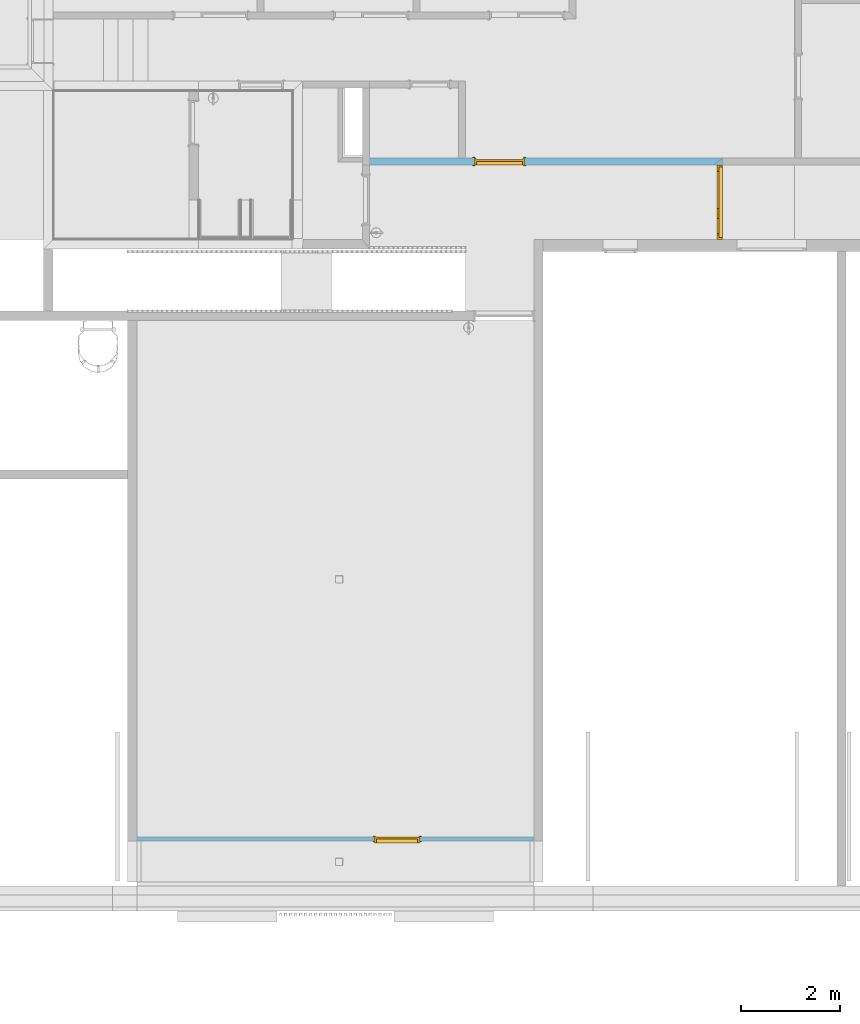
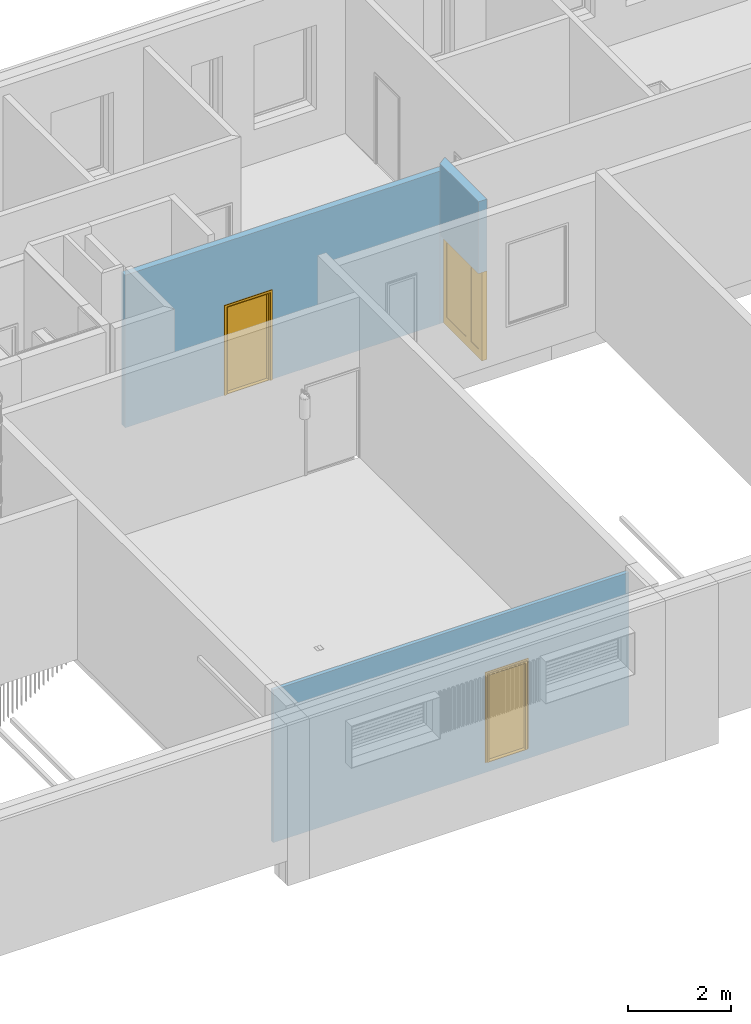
# One storey, part 52 of 100: 3 doors, 3 openings, plus 3 elements that do not belong to this part.
"""IFC2X3 building model written with IfcOpenShell, lengths in millimetres."""

from ifc_helpers import new_model, entity, si_unit, converted_unit, derived_unit, money_unit, direction, frame, origin_with_axes, origin_2d_with_axis, place, context, subcontext, project, spatial, polyline, rectangle, outline, extrude, open_shell, faceted_brep, surface_model, material, layer, layer_set, layer_usage, type_object, element, fill, save


model = new_model("IFC2X3")

# Units and contexts
model_context = context("Model", 3, precision=0.01, world=origin_with_axes(), true_north=direction((0.0, 1.0)))
body_context = subcontext(model_context, "Body", "Model", "MODEL_VIEW")
ifc_project = project(units=[si_unit("LENGTHUNIT", "METRE", prefix="MILLI"), si_unit("AREAUNIT", "SQUARE_METRE"), si_unit("VOLUMEUNIT", "CUBIC_METRE"), converted_unit("PLANEANGLEUNIT", "DEGREE", entity("IfcPlaneAngleMeasure", 0.0174532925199), si_unit("PLANEANGLEUNIT", "RADIAN"), dimensions=[0, 0, 0, 0, 0, 0, 0]), si_unit("SOLIDANGLEUNIT", "STERADIAN"), money_unit("EUR"), converted_unit("TIMEUNIT", "Year", entity("IfcTimeMeasure", 31556926.0), si_unit("TIMEUNIT", "SECOND"), dimensions=[0, 0, 1, 0, 0, 0, 0]), si_unit("MASSUNIT", "GRAM", prefix="KILO"), si_unit("THERMODYNAMICTEMPERATUREUNIT", "DEGREE_CELSIUS"), si_unit("LUMINOUSINTENSITYUNIT", "LUMEN"), si_unit("ENERGYUNIT", "JOULE", prefix="MEGA"), derived_unit("THERMALCONDUCTANCEUNIT", [(si_unit("POWERUNIT", "WATT"), 1), (si_unit("LENGTHUNIT", "METRE"), -1), (si_unit("THERMODYNAMICTEMPERATUREUNIT", "KELVIN"), -1)]), derived_unit("SPECIFICHEATCAPACITYUNIT", [(si_unit("ENERGYUNIT", "JOULE"), 1), (si_unit("MASSUNIT", "GRAM", prefix="KILO"), -1), (si_unit("THERMODYNAMICTEMPERATUREUNIT", "KELVIN"), -1)]), derived_unit("MASSDENSITYUNIT", [(si_unit("MASSUNIT", "GRAM", prefix="KILO"), 1), (si_unit("VOLUMEUNIT", "CUBIC_METRE"), -1)])], contexts=[model_context])

# Site, building, storey
site_placement = place(None, origin_with_axes())
site = spatial("IfcSite", under=ifc_project, at=site_placement, Name="Politse- ja Piirivalveameti ning Päästeameti ühishoone", CompositionType="ELEMENT")
building_placement = place(site_placement, origin_with_axes())
building = spatial("IfcBuilding", under=site, at=building_placement, Name="Politse- ja Piirivalveameti ning Päästeameti ühishoone", CompositionType="ELEMENT")
storey_placement = place(building_placement, frame((0.0, 0.0, 3800.0), z_axis=(0.0, 0.0, 1.0), x_axis=(1.0, 0.0, 0.0)))
storey = spatial("IfcBuildingStorey", under=building, at=storey_placement, Name="Teine korrus", CompositionType="ELEMENT", Elevation=3800.0)

# Wall, opening, door
ifc_material_1 = material(Name="KON-05_Betoon Plokk - Konstuktsioon")
ifc_layer_1 = layer(ifc_material_1, 190.0, ventilated="UNKNOWN")
ifc_layer_set_1 = layer_set([ifc_layer_1], Name="SS-03_Sisesein 190")
ifc_layer_usage_1 = layer_usage(ifc_layer_set_1, "AXIS2", "POSITIVE", 0.0)
wall_type_1 = type_object("IfcWallType", Name="SS-03_Sisesein 190 190", PredefinedType="NOTDEFINED")
wall_1_placement = place(storey_placement, frame((30369.9035567, 13000.0198611, 0.0), z_axis=(0.0, 0.0, 1.0), x_axis=(0.0, 1.0, 0.0)))
wall_1 = element("IfcWallStandardCase", 1, at=wall_1_placement, inside=storey, type_object=wall_type_1, material=ifc_layer_usage_1, Name="SS-03", context=body_context, shape_type="SweptSolid", body=[
    extrude(outline(polyline([(0.0, 0.0), (1640.0222917, 0.0), (1500.0222917, 190.0), (0.0, 190.0), (0.0, 0.0)])), origin_with_axes(), (0.0, 0.0, 1.0), 3800.0),
])
opening_1_placement = place(wall_1_placement, frame((750.0, 0.0, 0.0), z_axis=(0.0, 0.0, 1.0), x_axis=(1.0, 0.0, 0.0)))
opening_1 = element("IfcOpeningElement", 2, at=opening_1_placement, cuts=wall_1, Name="TU-01-6", context=body_context, shape_type="SweptSolid", body=[
    extrude(rectangle(XDim=1500.0, YDim=2100.0, at=origin_2d_with_axis()), frame((0.0, 190.0, 1050.0), z_axis=(0.0, 1.0, 0.0), x_axis=(-1.0, 0.0, 0.0)), (0.0, 0.0, -1.0), 570.0),
])
door_style_1 = type_object("IfcDoorStyle", Name="Double Door Asymmetric 23", ConstructionType="NOTDEFINED", OperationType="DOUBLE_DOOR_SINGLE_SWING", ParameterTakesPrecedence=False, Sizeable=False)
door_1_placement = place(opening_1_placement, frame((-750.0, 0.0, 0.0), z_axis=(0.0, 0.0, 1.0), x_axis=(1.0, 0.0, 0.0)))
door_1 = element("IfcDoor", 3, at=door_1_placement, inside=storey, type_object=door_style_1, Name="TU-01-6", ObjectType="DOOR", OverallHeight=2100.0, OverallWidth=1500.0, context=body_context, shape_type="SurfaceModel", body=[
    faceted_brep([(40.0, 0.0, 0.0), (40.0, 0.0, 12.0), (40.0, 75.0, 12.0), (40.0, 75.0, 0.0), (1460.0, 0.0, 0.0), (1460.0, 0.0, 12.0), (1460.0, 75.0, 12.0), (1472.0, 75.0, 12.0), (28.0, 75.0, 12.0), (28.0, 75.0, 0.0), (1472.0, 75.0, 0.0), (1460.0, 75.0, 0.0)], [[[0, 1, 2, 3]], [[4, 5, 1, 0]], [[1, 5, 6, 7, 8, 2]], [[3, 2, 8, 9]], [[0, 3, 9, 10, 11, 4]], [[11, 6, 5, 4]], [[10, 7, 6, 11]], [[9, 8, 7, 10]]]),
    faceted_brep([(1460.0, 75.0, 0.0), (1460.0, 0.0, 0.0), (1460.0, 0.0, 2060.0), (1460.0, 75.0, 2060.0), (1472.0, 75.0, 0.0), (1472.0, 115.0, 0.0), (1500.0, 115.0, 0.0), (1500.0, 0.0, 0.0), (1500.0, 0.0, 2060.0), (1472.0, 75.0, 2060.0), (1500.0, 115.0, 2060.0), (1472.0, 115.0, 2060.0)], [[[0, 1, 2, 3]], [[4, 5, 6, 7, 1, 0]], [[1, 7, 8, 2]], [[9, 3, 2, 8, 10, 11]], [[9, 4, 0, 3]], [[11, 5, 4, 9]], [[11, 10, 6, 5]], [[6, 10, 8, 7]]]),
    faceted_brep([(28.0, 75.0, 2060.0), (28.0, 115.0, 2060.0), (0.0, 115.0, 2060.0), (0.0, 0.0, 2060.0), (40.0, 0.0, 2060.0), (40.0, 75.0, 2060.0), (28.0, 75.0, 0.0), (28.0, 115.0, 0.0), (0.0, 115.0, 0.0), (0.0, 0.0, 0.0), (40.0, 0.0, 0.0), (40.0, 75.0, 0.0)], [[[0, 1, 2, 3, 4, 5]], [[0, 6, 7, 1]], [[7, 8, 2, 1]], [[2, 8, 9, 3]], [[3, 9, 10, 4]], [[5, 4, 10, 11]], [[5, 11, 6, 0]], [[6, 11, 10, 9, 8, 7]]]),
    faceted_brep([(1472.0, 115.0, 2072.0), (28.0, 115.0, 2072.0), (28.0, 115.0, 2060.0), (0.0, 115.0, 2060.0), (0.0, 115.0, 2100.0), (1500.0, 115.0, 2100.0), (1500.0, 115.0, 2060.0), (1472.0, 115.0, 2060.0), (1472.0, 75.0, 2072.0), (28.0, 75.0, 2072.0), (28.0, 75.0, 2060.0), (40.0, 75.0, 2060.0), (40.0, 0.0, 2060.0), (0.0, 0.0, 2060.0), (0.0, 0.0, 2100.0), (1500.0, 0.0, 2100.0), (1500.0, 0.0, 2060.0), (1472.0, 75.0, 2060.0), (1460.0, 0.0, 2060.0), (1460.0, 75.0, 2060.0)], [[[0, 1, 2, 3, 4, 5, 6, 7]], [[0, 8, 9, 1]], [[1, 9, 10, 2]], [[10, 11, 12, 13, 3, 2]], [[4, 3, 13, 14]], [[5, 4, 14, 15]], [[6, 5, 15, 16]], [[17, 7, 6, 16, 18, 19]], [[7, 17, 8, 0]], [[10, 9, 8, 17, 19, 11]], [[19, 18, 12, 11]], [[12, 18, 16, 15, 14, 13]]]),
    faceted_brep([(28.0, 115.0, 200.0), (128.0, 115.0, 200.0), (128.0, 75.0, 200.0), (28.0, 75.0, 200.0), (28.0, 115.0, 1972.0), (128.0, 115.0, 1972.0), (128.0, 75.0, 1972.0), (28.0, 75.0, 1972.0)], [[[0, 1, 2, 3]], [[0, 4, 5, 1]], [[1, 5, 6, 2]], [[3, 2, 6, 7]], [[4, 0, 3, 7]], [[5, 4, 7, 6]]]),
    faceted_brep([(528.0, 115.0, 200.0), (528.0, 115.0, 1972.0), (528.0, 75.0, 1972.0), (528.0, 75.0, 200.0), (428.0, 115.0, 200.0), (428.0, 115.0, 1972.0), (428.0, 75.0, 1972.0), (428.0, 75.0, 200.0)], [[[0, 1, 2, 3]], [[0, 4, 5, 1]], [[1, 5, 6, 2]], [[3, 2, 6, 7]], [[4, 0, 3, 7]], [[5, 4, 7, 6]]]),
    faceted_brep([(28.0, 115.0, 0.0), (528.0, 115.0, 0.0), (528.0, 75.0, 0.0), (28.0, 75.0, 0.0), (28.0, 115.0, 200.0), (128.0, 115.0, 200.0), (428.0, 115.0, 200.0), (528.0, 115.0, 200.0), (528.0, 75.0, 200.0), (428.0, 75.0, 200.0), (128.0, 75.0, 200.0), (28.0, 75.0, 200.0)], [[[0, 1, 2, 3]], [[0, 4, 5, 6, 7, 1]], [[1, 7, 8, 2]], [[3, 2, 8, 9, 10, 11]], [[4, 0, 3, 11]], [[5, 4, 11, 10]], [[6, 5, 10, 9]], [[7, 6, 9, 8]]]),
    faceted_brep([(28.0, 115.0, 2072.0), (28.0, 115.0, 1972.0), (28.0, 75.0, 1972.0), (28.0, 75.0, 2072.0), (528.0, 115.0, 2072.0), (528.0, 115.0, 1972.0), (428.0, 115.0, 1972.0), (128.0, 115.0, 1972.0), (128.0, 75.0, 1972.0), (428.0, 75.0, 1972.0), (528.0, 75.0, 1972.0), (528.0, 75.0, 2072.0)], [[[0, 1, 2, 3]], [[0, 4, 5, 6, 7, 1]], [[1, 7, 8, 2]], [[3, 2, 8, 9, 10, 11]], [[4, 0, 3, 11]], [[5, 4, 11, 10]], [[6, 5, 10, 9]], [[7, 6, 9, 8]]]),
    surface_model("IfcShellBasedSurfaceModel", [(128.0, 101.0, 200.0), (128.0, 101.0, 1972.0), (428.0, 101.0, 1972.0), (428.0, 101.0, 200.0)], [open_shell([[[0, 1, 2, 3]]])]),
    surface_model("IfcShellBasedSurfaceModel", [(128.0, 89.0, 200.0), (428.0, 89.0, 200.0), (428.0, 89.0, 1972.0), (128.0, 89.0, 1972.0)], [open_shell([[[0, 1, 2, 3]]])]),
    faceted_brep([(1472.0, 115.0, 200.0), (1472.0, 75.0, 200.0), (1372.0, 75.0, 200.0), (1372.0, 115.0, 200.0), (1472.0, 115.0, 1972.0), (1472.0, 75.0, 1972.0), (1372.0, 75.0, 1972.0), (1372.0, 115.0, 1972.0)], [[[0, 1, 2, 3]], [[4, 5, 1, 0]], [[1, 5, 6, 2]], [[3, 2, 6, 7]], [[0, 3, 7, 4]], [[7, 6, 5, 4]]]),
    faceted_brep([(528.0, 115.0, 200.0), (528.0, 75.0, 200.0), (528.0, 75.0, 1972.0), (528.0, 115.0, 1972.0), (628.0, 115.0, 200.0), (628.0, 75.0, 200.0), (628.0, 75.0, 1972.0), (628.0, 115.0, 1972.0)], [[[0, 1, 2, 3]], [[4, 5, 1, 0]], [[1, 5, 6, 2]], [[3, 2, 6, 7]], [[0, 3, 7, 4]], [[7, 6, 5, 4]]]),
    faceted_brep([(1472.0, 115.0, 0.0), (1472.0, 75.0, 0.0), (528.0, 75.0, 0.0), (528.0, 115.0, 0.0), (1472.0, 115.0, 200.0), (1472.0, 75.0, 200.0), (1372.0, 75.0, 200.0), (628.0, 75.0, 200.0), (528.0, 75.0, 200.0), (528.0, 115.0, 200.0), (628.0, 115.0, 200.0), (1372.0, 115.0, 200.0)], [[[0, 1, 2, 3]], [[4, 5, 1, 0]], [[1, 5, 6, 7, 8, 2]], [[3, 2, 8, 9]], [[0, 3, 9, 10, 11, 4]], [[11, 6, 5, 4]], [[10, 7, 6, 11]], [[9, 8, 7, 10]]]),
    faceted_brep([(1472.0, 115.0, 2072.0), (1472.0, 75.0, 2072.0), (1472.0, 75.0, 1972.0), (1472.0, 115.0, 1972.0), (528.0, 115.0, 2072.0), (528.0, 75.0, 2072.0), (528.0, 75.0, 1972.0), (628.0, 75.0, 1972.0), (1372.0, 75.0, 1972.0), (1372.0, 115.0, 1972.0), (628.0, 115.0, 1972.0), (528.0, 115.0, 1972.0)], [[[0, 1, 2, 3]], [[4, 5, 1, 0]], [[1, 5, 6, 7, 8, 2]], [[3, 2, 8, 9]], [[0, 3, 9, 10, 11, 4]], [[11, 6, 5, 4]], [[10, 7, 6, 11]], [[9, 8, 7, 10]]]),
    surface_model("IfcShellBasedSurfaceModel", [(1372.0, 101.0, 200.0), (628.0, 101.0, 200.0), (628.0, 101.0, 1972.0), (1372.0, 101.0, 1972.0)], [open_shell([[[0, 1, 2, 3]]])]),
    surface_model("IfcShellBasedSurfaceModel", [(1372.0, 89.0, 200.0), (1372.0, 89.0, 1972.0), (628.0, 89.0, 1972.0), (628.0, 89.0, 200.0)], [open_shell([[[0, 1, 2, 3]]])]),
])
fill(opening_1, door_1)

ifc_layer_2 = layer(ifc_material_1, 140.0, ventilated="UNKNOWN")
ifc_layer_set_2 = layer_set([ifc_layer_2], Name="SS-02_Sisesein 140")
ifc_layer_usage_2 = layer_usage(ifc_layer_set_2, "AXIS2", "NEGATIVE", 140.0)
wall_type_2 = type_object("IfcWallType", Name="SS-02_Sisesein 140 140", PredefinedType="NOTDEFINED")
wall_2_placement = place(storey_placement, frame((23120.0260184, 14500.0421528, 0.0), z_axis=(0.0, 0.0, 1.0), x_axis=(1.0, 0.0, 0.0)))
wall_2 = element("IfcWallStandardCase", 4, at=wall_2_placement, inside=storey, type_object=wall_type_2, material=ifc_layer_usage_2, Name="SS-02", context=body_context, shape_type="SweptSolid", body=[
    extrude(outline(polyline([(0.0, 0.0), (7059.87753836, 0.0), (7249.87753836, 140.0), (0.0, 140.0), (0.0, 0.0)])), origin_with_axes(), (0.0, 0.0, 1.0), 3620.0),
])
opening_2_placement = place(wall_2_placement, frame((2758.51786575, 0.0, 0.0), z_axis=(0.0, 0.0, 1.0), x_axis=(1.0, 0.0, 0.0)))
opening_2 = element("IfcOpeningElement", 5, at=opening_2_placement, cuts=wall_2, Name="TU-01-8", context=body_context, shape_type="SweptSolid", body=[
    extrude(rectangle(XDim=1000.0, YDim=2100.0, at=origin_2d_with_axis()), frame((0.0, 140.0, 1050.0), z_axis=(0.0, 1.0, 0.0), x_axis=(-1.0, 0.0, 0.0)), (0.0, 0.0, -1.0), 420.0),
    extrude(rectangle(XDim=1074.0, YDim=2137.0, at=origin_2d_with_axis()), frame((0.0, 140.0, 1068.5), z_axis=(0.0, 1.0, 0.0), x_axis=(-1.0, 0.0, 0.0)), (0.0, 0.0, 1.0), 140.0),
    extrude(rectangle(XDim=1074.0, YDim=2137.0, at=origin_2d_with_axis()), frame((0.0, 0.0, 1068.5), z_axis=(0.0, -1.0, 0.0), x_axis=(-1.0, 0.0, 0.0)), (0.0, 0.0, 1.0), 140.0),
])
door_style_2 = type_object("IfcDoorStyle", Name="Door 23", ConstructionType="NOTDEFINED", OperationType="SINGLE_SWING_LEFT", ParameterTakesPrecedence=False, Sizeable=False)
door_2_placement = place(opening_2_placement, frame((-500.0, 0.0, 0.0), z_axis=(0.0, 0.0, 1.0), x_axis=(1.0, 0.0, 0.0)))
door_2 = element("IfcDoor", 6, at=door_2_placement, inside=storey, type_object=door_style_2, Name="TU-01-8", ObjectType="DOOR", OverallHeight=2100.0, OverallWidth=1000.0, context=body_context, shape_type="Brep", body=[
    faceted_brep([(40.0, 0.0, 0.0), (40.0, 0.0, 12.0), (40.0, 75.0, 12.0), (40.0, 75.0, 0.0), (960.0, 0.0, 0.0), (960.0, 0.0, 12.0), (960.0, 75.0, 12.0), (972.0, 75.0, 12.0), (28.0, 75.0, 12.0), (28.0, 75.0, 0.0), (972.0, 75.0, 0.0), (960.0, 75.0, 0.0)], [[[0, 1, 2, 3]], [[4, 5, 1, 0]], [[1, 5, 6, 7, 8, 2]], [[3, 2, 8, 9]], [[0, 3, 9, 10, 11, 4]], [[11, 6, 5, 4]], [[10, 7, 6, 11]], [[9, 8, 7, 10]]]),
    faceted_brep([(1000.0, 115.0, 0.0), (975.0, 115.0, 0.0), (975.0, 140.0, 0.0), (1000.0, 140.0, 0.0), (1000.0, 115.0, 2100.0), (975.0, 115.0, 2075.0), (975.0, 140.0, 2075.0), (1000.0, 140.0, 2100.0)], [[[0, 1, 2, 3]], [[0, 4, 5, 1]], [[1, 5, 6, 2]], [[3, 2, 6, 7]], [[4, 0, 3, 7]], [[5, 4, 7, 6]]]),
    faceted_brep([(0.0, 115.0, 2100.0), (25.0, 115.0, 2075.0), (25.0, 140.0, 2075.0), (0.0, 140.0, 2100.0), (0.0, 115.0, 0.0), (25.0, 115.0, 0.0), (25.0, 140.0, 0.0), (0.0, 140.0, 0.0)], [[[0, 1, 2, 3]], [[0, 4, 5, 1]], [[1, 5, 6, 2]], [[3, 2, 6, 7]], [[4, 0, 3, 7]], [[5, 4, 7, 6]]]),
    faceted_brep([(975.0, 115.0, 2075.0), (25.0, 115.0, 2075.0), (25.0, 140.0, 2075.0), (975.0, 140.0, 2075.0), (1000.0, 115.0, 2100.0), (0.0, 115.0, 2100.0), (0.0, 140.0, 2100.0), (1000.0, 140.0, 2100.0)], [[[0, 1, 2, 3]], [[0, 4, 5, 1]], [[1, 5, 6, 2]], [[3, 2, 6, 7]], [[4, 0, 3, 7]], [[5, 4, 7, 6]]]),
    faceted_brep([(1037.0, 159.0, 0.0), (1037.0, 140.0, 0.0), (987.0, 140.0, 0.0), (987.0, 159.0, 0.0), (1037.0, 159.0, 2137.0), (1037.0, 140.0, 2137.0), (987.0, 140.0, 2087.0), (987.0, 159.0, 2087.0)], [[[0, 1, 2, 3]], [[4, 5, 1, 0]], [[1, 5, 6, 2]], [[3, 2, 6, 7]], [[0, 3, 7, 4]], [[7, 6, 5, 4]]]),
    faceted_brep([(-37.0, 159.0, 2137.0), (-37.0, 140.0, 2137.0), (13.0, 140.0, 2087.0), (13.0, 159.0, 2087.0), (-37.0, 159.0, 0.0), (-37.0, 140.0, 0.0), (13.0, 140.0, 0.0), (13.0, 159.0, 0.0)], [[[0, 1, 2, 3]], [[4, 5, 1, 0]], [[1, 5, 6, 2]], [[3, 2, 6, 7]], [[0, 3, 7, 4]], [[7, 6, 5, 4]]]),
    faceted_brep([(1037.0, 159.0, 2137.0), (1037.0, 140.0, 2137.0), (987.0, 140.0, 2087.0), (987.0, 159.0, 2087.0), (-37.0, 159.0, 2137.0), (-37.0, 140.0, 2137.0), (13.0, 140.0, 2087.0), (13.0, 159.0, 2087.0)], [[[0, 1, 2, 3]], [[4, 5, 1, 0]], [[1, 5, 6, 2]], [[3, 2, 6, 7]], [[0, 3, 7, 4]], [[7, 6, 5, 4]]]),
    faceted_brep([(1037.0, -19.0, 0.0), (987.0, -19.0, 0.0), (987.0, 0.0, 0.0), (1037.0, 0.0, 0.0), (1037.0, -19.0, 2137.0), (987.0, -19.0, 2087.0), (987.0, 0.0, 2087.0), (1037.0, 0.0, 2137.0)], [[[0, 1, 2, 3]], [[0, 4, 5, 1]], [[1, 5, 6, 2]], [[3, 2, 6, 7]], [[4, 0, 3, 7]], [[5, 4, 7, 6]]]),
    faceted_brep([(-37.0, -19.0, 2137.0), (13.0, -19.0, 2087.0), (13.0, 0.0, 2087.0), (-37.0, 0.0, 2137.0), (-37.0, -19.0, 0.0), (13.0, -19.0, 0.0), (13.0, 0.0, 0.0), (-37.0, 0.0, 0.0)], [[[0, 1, 2, 3]], [[0, 4, 5, 1]], [[1, 5, 6, 2]], [[3, 2, 6, 7]], [[4, 0, 3, 7]], [[5, 4, 7, 6]]]),
    faceted_brep([(1037.0, -19.0, 2137.0), (987.0, -19.0, 2087.0), (987.0, 0.0, 2087.0), (1037.0, 0.0, 2137.0), (-37.0, -19.0, 2137.0), (13.0, -19.0, 2087.0), (13.0, 0.0, 2087.0), (-37.0, 0.0, 2137.0)], [[[0, 1, 2, 3]], [[0, 4, 5, 1]], [[1, 5, 6, 2]], [[3, 2, 6, 7]], [[4, 0, 3, 7]], [[5, 4, 7, 6]]]),
    faceted_brep([(960.0, 75.0, 0.0), (960.0, 0.0, 0.0), (960.0, 0.0, 2060.0), (960.0, 75.0, 2060.0), (972.0, 75.0, 0.0), (972.0, 115.0, 0.0), (1000.0, 115.0, 0.0), (1000.0, 0.0, 0.0), (1000.0, 0.0, 2060.0), (972.0, 75.0, 2060.0), (1000.0, 115.0, 2060.0), (972.0, 115.0, 2060.0)], [[[0, 1, 2, 3]], [[4, 5, 6, 7, 1, 0]], [[1, 7, 8, 2]], [[9, 3, 2, 8, 10, 11]], [[9, 4, 0, 3]], [[11, 5, 4, 9]], [[11, 10, 6, 5]], [[6, 10, 8, 7]]]),
    faceted_brep([(28.0, 75.0, 2060.0), (28.0, 115.0, 2060.0), (0.0, 115.0, 2060.0), (0.0, 0.0, 2060.0), (40.0, 0.0, 2060.0), (40.0, 75.0, 2060.0), (28.0, 75.0, 0.0), (28.0, 115.0, 0.0), (0.0, 115.0, 0.0), (0.0, 0.0, 0.0), (40.0, 0.0, 0.0), (40.0, 75.0, 0.0)], [[[0, 1, 2, 3, 4, 5]], [[0, 6, 7, 1]], [[7, 8, 2, 1]], [[2, 8, 9, 3]], [[3, 9, 10, 4]], [[5, 4, 10, 11]], [[5, 11, 6, 0]], [[6, 11, 10, 9, 8, 7]]]),
    faceted_brep([(972.0, 115.0, 2072.0), (28.0, 115.0, 2072.0), (28.0, 115.0, 2060.0), (0.0, 115.0, 2060.0), (0.0, 115.0, 2100.0), (1000.0, 115.0, 2100.0), (1000.0, 115.0, 2060.0), (972.0, 115.0, 2060.0), (972.0, 75.0, 2072.0), (28.0, 75.0, 2072.0), (28.0, 75.0, 2060.0), (40.0, 75.0, 2060.0), (40.0, 0.0, 2060.0), (0.0, 0.0, 2060.0), (0.0, 0.0, 2100.0), (1000.0, 0.0, 2100.0), (1000.0, 0.0, 2060.0), (972.0, 75.0, 2060.0), (960.0, 0.0, 2060.0), (960.0, 75.0, 2060.0)], [[[0, 1, 2, 3, 4, 5, 6, 7]], [[0, 8, 9, 1]], [[1, 9, 10, 2]], [[10, 11, 12, 13, 3, 2]], [[4, 3, 13, 14]], [[5, 4, 14, 15]], [[6, 5, 15, 16]], [[17, 7, 6, 16, 18, 19]], [[7, 17, 8, 0]], [[10, 9, 8, 17, 19, 11]], [[19, 18, 12, 11]], [[12, 18, 16, 15, 14, 13]]]),
    faceted_brep([(28.0, 115.0, 0.0), (972.0, 115.0, 0.0), (972.0, 75.0, 0.0), (28.0, 75.0, 0.0), (28.0, 115.0, 2072.0), (972.0, 115.0, 2072.0), (972.0, 75.0, 2072.0), (28.0, 75.0, 2072.0)], [[[0, 1, 2, 3]], [[0, 4, 5, 1]], [[1, 5, 6, 2]], [[3, 2, 6, 7]], [[4, 0, 3, 7]], [[5, 4, 7, 6]]]),
])
fill(opening_2, door_2)

ifc_material_2 = material(Name="SOJ-02_Soojustus - Fiiber Kõva")
ifc_layer_3 = layer(ifc_material_2, 80.0, ventilated="UNKNOWN")
ifc_layer_set_3 = layer_set([ifc_layer_3], Name="SS-10_Sisesein SW-paneel 80")
ifc_layer_usage_3 = layer_usage(ifc_layer_set_3, "AXIS2", "POSITIVE", 0.0)
wall_type_3 = type_object("IfcWallType", Name="SS-10_Sisesein SW-paneel 80 80", PredefinedType="NOTDEFINED")
wall_3_placement = place(storey_placement, frame((18590.0881112, 899.772752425, 0.0), z_axis=(0.0, 0.0, 1.0), x_axis=(1.0, 0.0, 0.0)))
wall_3 = element("IfcWallStandardCase", 7, at=wall_3_placement, inside=storey, type_object=wall_type_3, material=ifc_layer_usage_3, Name="SS-10", context=body_context, shape_type="SweptSolid", body=[
    extrude(outline(polyline([(0.0, 0.0), (7979.61277161, 0.0), (7979.61277161, 80.0), (0.0, 80.0), (0.0, 0.0)])), origin_with_axes(), (0.0, 0.0, 1.0), 3620.0),
])
opening_3_placement = place(wall_3_placement, frame((5229.9118888, 0.0, 247.000055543), z_axis=(0.0, 0.0, 1.0), x_axis=(1.0, 0.0, 0.0)))
opening_3 = element("IfcOpeningElement", 8, at=opening_3_placement, cuts=wall_3, Name="SU-01-7", context=body_context, shape_type="SweptSolid", body=[
    extrude(rectangle(XDim=900.0, YDim=2100.0, at=origin_2d_with_axis()), frame((0.0, -80.0, 1050.0), z_axis=(0.0, 1.0, 0.0), x_axis=(1.0, 0.0, 0.0)), (0.0, 0.0, 1.0), 240.0),
    extrude(rectangle(XDim=974.0, YDim=2137.0, at=origin_2d_with_axis()), frame((0.0, 0.0, 1068.5), z_axis=(0.0, 1.0, 0.0), x_axis=(1.0, 0.0, 0.0)), (0.0, 0.0, -1.0), 80.0),
    extrude(rectangle(XDim=974.0, YDim=2137.0, at=origin_2d_with_axis()), frame((0.0, 80.0, 1068.5), z_axis=(0.0, -1.0, 0.0), x_axis=(1.0, 0.0, 0.0)), (0.0, 0.0, -1.0), 80.0),
])
door_style_3 = type_object("IfcDoorStyle", Name="Door 23", ConstructionType="NOTDEFINED", OperationType="SINGLE_SWING_RIGHT", ParameterTakesPrecedence=False, Sizeable=False)
door_3_placement = place(opening_3_placement, frame((-450.0, 0.0, 0.0), z_axis=(0.0, 0.0, 1.0), x_axis=(1.0, 0.0, 0.0)))
door_3 = element("IfcDoor", 9, at=door_3_placement, inside=storey, type_object=door_style_3, Name="SU-01-7", ObjectType="DOOR", OverallHeight=2100.0, OverallWidth=900.0, context=body_context, shape_type="Brep", body=[
    faceted_brep([(872.0, 40.0, 0.0), (872.0, 40.0, 12.0), (860.0, 40.0, 12.0), (860.0, 40.0, 0.0), (28.0, 40.0, 0.0), (28.0, 40.0, 12.0), (40.0, 40.0, 12.0), (40.0, -35.0, 12.0), (860.0, -35.0, 12.0), (860.0, -35.0, 0.0), (40.0, -35.0, 0.0), (40.0, 40.0, 0.0)], [[[0, 1, 2, 3]], [[4, 5, 1, 0]], [[1, 5, 6, 7, 8, 2]], [[3, 2, 8, 9]], [[0, 3, 9, 10, 11, 4]], [[11, 6, 5, 4]], [[10, 7, 6, 11]], [[9, 8, 7, 10]]]),
    faceted_brep([(-37.0, -19.0, 0.0), (-37.0, 0.0, 0.0), (13.0, 0.0, 0.0), (13.0, -19.0, 0.0), (-37.0, -19.0, 2137.0), (-37.0, 0.0, 2137.0), (13.0, 0.0, 2087.0), (13.0, -19.0, 2087.0)], [[[0, 1, 2, 3]], [[4, 5, 1, 0]], [[1, 5, 6, 2]], [[3, 2, 6, 7]], [[0, 3, 7, 4]], [[7, 6, 5, 4]]]),
    faceted_brep([(937.0, -19.0, 2137.0), (937.0, 0.0, 2137.0), (887.0, 0.0, 2087.0), (887.0, -19.0, 2087.0), (937.0, -19.0, 0.0), (937.0, 0.0, 0.0), (887.0, 0.0, 0.0), (887.0, -19.0, 0.0)], [[[0, 1, 2, 3]], [[4, 5, 1, 0]], [[1, 5, 6, 2]], [[3, 2, 6, 7]], [[0, 3, 7, 4]], [[7, 6, 5, 4]]]),
    faceted_brep([(-37.0, -19.0, 2137.0), (-37.0, 0.0, 2137.0), (13.0, 0.0, 2087.0), (13.0, -19.0, 2087.0), (937.0, -19.0, 2137.0), (937.0, 0.0, 2137.0), (887.0, 0.0, 2087.0), (887.0, -19.0, 2087.0)], [[[0, 1, 2, 3]], [[4, 5, 1, 0]], [[1, 5, 6, 2]], [[3, 2, 6, 7]], [[0, 3, 7, 4]], [[7, 6, 5, 4]]]),
    faceted_brep([(-37.0, 99.0, 0.0), (13.0, 99.0, 0.0), (13.0, 80.0, 0.0), (-37.0, 80.0, 0.0), (-37.0, 99.0, 2137.0), (13.0, 99.0, 2087.0), (13.0, 80.0, 2087.0), (-37.0, 80.0, 2137.0)], [[[0, 1, 2, 3]], [[0, 4, 5, 1]], [[1, 5, 6, 2]], [[3, 2, 6, 7]], [[4, 0, 3, 7]], [[5, 4, 7, 6]]]),
    faceted_brep([(937.0, 99.0, 2137.0), (887.0, 99.0, 2087.0), (887.0, 80.0, 2087.0), (937.0, 80.0, 2137.0), (937.0, 99.0, 0.0), (887.0, 99.0, 0.0), (887.0, 80.0, 0.0), (937.0, 80.0, 0.0)], [[[0, 1, 2, 3]], [[0, 4, 5, 1]], [[1, 5, 6, 2]], [[3, 2, 6, 7]], [[4, 0, 3, 7]], [[5, 4, 7, 6]]]),
    faceted_brep([(-37.0, 99.0, 2137.0), (13.0, 99.0, 2087.0), (13.0, 80.0, 2087.0), (-37.0, 80.0, 2137.0), (937.0, 99.0, 2137.0), (887.0, 99.0, 2087.0), (887.0, 80.0, 2087.0), (937.0, 80.0, 2137.0)], [[[0, 1, 2, 3]], [[0, 4, 5, 1]], [[1, 5, 6, 2]], [[3, 2, 6, 7]], [[4, 0, 3, 7]], [[5, 4, 7, 6]]]),
    faceted_brep([(40.0, 40.0, 0.0), (40.0, 40.0, 2060.0), (40.0, -35.0, 2060.0), (40.0, -35.0, 0.0), (28.0, 40.0, 2060.0), (28.0, 40.0, 0.0), (28.0, 80.0, 2060.0), (0.0, 80.0, 2060.0), (0.0, -35.0, 2060.0), (0.0, -35.0, 0.0), (0.0, 80.0, 0.0), (28.0, 80.0, 0.0)], [[[0, 1, 2, 3]], [[4, 1, 0, 5]], [[4, 6, 7, 8, 2, 1]], [[3, 2, 8, 9]], [[5, 0, 3, 9, 10, 11]], [[6, 4, 5, 11]], [[6, 11, 10, 7]], [[10, 9, 8, 7]]]),
    faceted_brep([(872.0, 40.0, 2060.0), (860.0, 40.0, 2060.0), (860.0, -35.0, 2060.0), (900.0, -35.0, 2060.0), (900.0, 80.0, 2060.0), (872.0, 80.0, 2060.0), (872.0, 40.0, 0.0), (860.0, 40.0, 0.0), (860.0, -35.0, 0.0), (900.0, -35.0, 0.0), (900.0, 80.0, 0.0), (872.0, 80.0, 0.0)], [[[0, 1, 2, 3, 4, 5]], [[1, 0, 6, 7]], [[1, 7, 8, 2]], [[3, 2, 8, 9]], [[4, 3, 9, 10]], [[11, 5, 4, 10]], [[0, 5, 11, 6]], [[6, 11, 10, 9, 8, 7]]]),
    faceted_brep([(28.0, 80.0, 2072.0), (28.0, 80.0, 2060.0), (0.0, 80.0, 2060.0), (0.0, 80.0, 2100.0), (900.0, 80.0, 2100.0), (900.0, 80.0, 2060.0), (872.0, 80.0, 2060.0), (872.0, 80.0, 2072.0), (28.0, 40.0, 2072.0), (28.0, 40.0, 2060.0), (40.0, 40.0, 2060.0), (40.0, -35.0, 2060.0), (0.0, -35.0, 2060.0), (0.0, -35.0, 2100.0), (900.0, -35.0, 2100.0), (900.0, -35.0, 2060.0), (872.0, 40.0, 2060.0), (860.0, -35.0, 2060.0), (860.0, 40.0, 2060.0), (872.0, 40.0, 2072.0)], [[[0, 1, 2, 3, 4, 5, 6, 7]], [[1, 0, 8, 9]], [[9, 10, 11, 12, 2, 1]], [[2, 12, 13, 3]], [[3, 13, 14, 4]], [[4, 14, 15, 5]], [[16, 6, 5, 15, 17, 18]], [[7, 6, 16, 19]], [[0, 7, 19, 8]], [[16, 18, 10, 9, 8, 19]], [[10, 18, 17, 11]], [[17, 15, 14, 13, 12, 11]]]),
    faceted_brep([(872.0, 80.0, 0.0), (872.0, 40.0, 0.0), (28.0, 40.0, 0.0), (28.0, 80.0, 0.0), (872.0, 80.0, 2072.0), (872.0, 40.0, 2072.0), (28.0, 40.0, 2072.0), (28.0, 80.0, 2072.0)], [[[0, 1, 2, 3]], [[4, 5, 1, 0]], [[1, 5, 6, 2]], [[3, 2, 6, 7]], [[0, 3, 7, 4]], [[7, 6, 5, 4]]]),
])
fill(opening_3, door_3)

save(model, "model.ifc")
